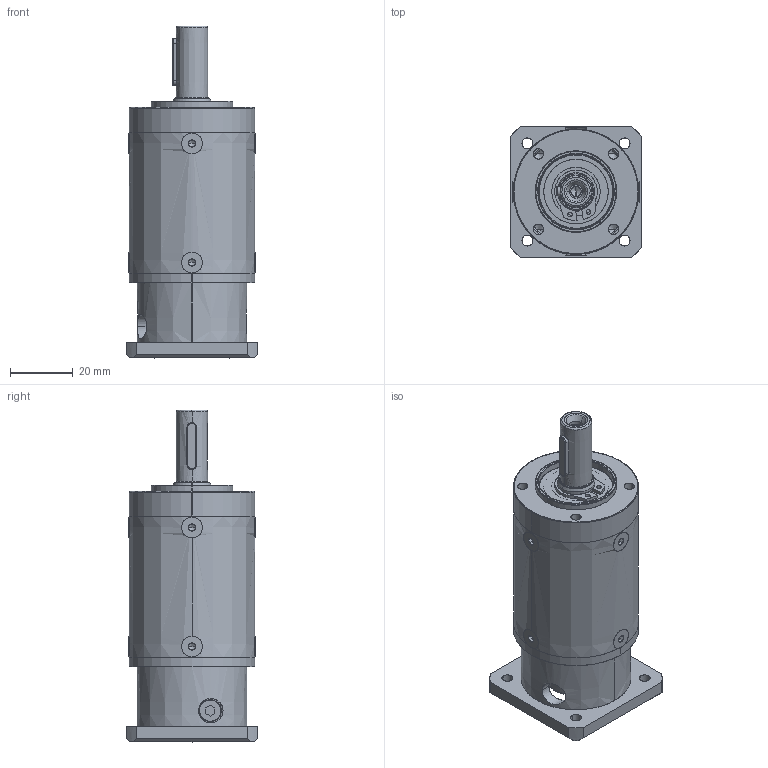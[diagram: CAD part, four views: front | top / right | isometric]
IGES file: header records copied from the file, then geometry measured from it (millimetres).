
Start section: SolidWorks IGES file using analytic representation for surfaces
Global section: file name: C:\TeknicPDM\Remarketed and Private Label Products\Gearboxes\Gearbox Customer Files\GSLL (Newstart PL Series)\GSLL-040-0_ _-N017_-XX Two Stage.IGS; native system: SolidWorks 2020; preprocessor: SolidWorks 2020; author: zeb_koch; date: 250826.104547; units: millimetre
Bounding box: 42 x 42 x 106 mm (x, y, z)
Surface area: 43576.2 mm2 (no closed solid volume)
Topology: 0 solids, 0 shells, 1128 faces, 22372 edges, 22286 vertices
Faces by surface type: bspline 645, revolution 483
